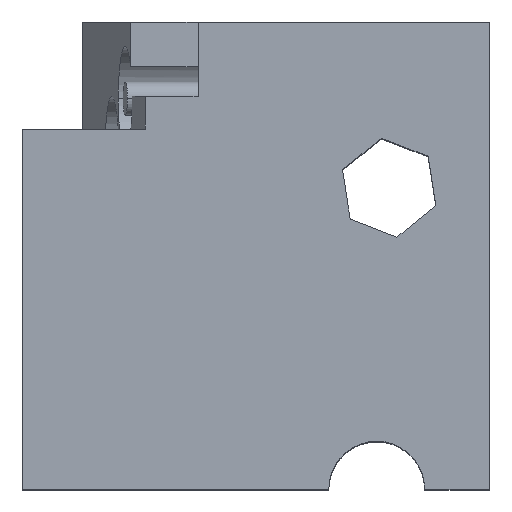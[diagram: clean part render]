
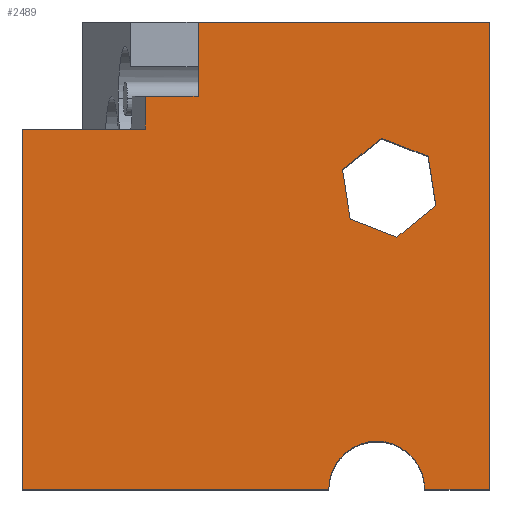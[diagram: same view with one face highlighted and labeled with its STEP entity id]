
A CAD part, top view. The second image highlights one B-rep face of the part: STEP entity #2489.
In plain terms, the highlighted planar face has unit normal (0, 0, 1).
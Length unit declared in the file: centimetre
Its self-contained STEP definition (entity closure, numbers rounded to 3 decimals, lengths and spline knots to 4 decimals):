
#1 = CARTESIAN_POINT ( 'NONE',  ( 1000., 1000., 1000. ) ) ;
#34 = DIRECTION ( 'NONE',  ( 0., 1., 0. ) ) ;
#35 = FACE_BOUND ( 'NONE', #2170, .T. ) ;
#63 = VERTEX_POINT ( 'NONE', #991 ) ;
#85 = EDGE_CURVE ( 'NONE', #896, #1041, #2085, .T. ) ;
#97 = VECTOR ( 'NONE', #1310, 100. ) ;
#101 = EDGE_CURVE ( 'NONE', #1649, #447, #193, .T. ) ;
#102 = LINE ( 'NONE', #1852, #1238 ) ;
#107 = VERTEX_POINT ( 'NONE', #1 ) ;
#124 = CARTESIAN_POINT ( 'NONE',  ( 0., 0., 1000. ) ) ;
#126 = ORIENTED_EDGE ( 'NONE', *, *, #444, .T. ) ;
#128 = VECTOR ( 'NONE', #2075, 100. ) ;
#193 = LINE ( 'NONE', #1333, #2061 ) ;
#195 = EDGE_CURVE ( 'NONE', #107, #1425, #1441, .T. ) ;
#250 = ORIENTED_EDGE ( 'NONE', *, *, #1035, .T. ) ;
#256 = ORIENTED_EDGE ( 'NONE', *, *, #734, .F. ) ;
#305 = DIRECTION ( 'NONE',  ( 0., 0., -1. ) ) ;
#309 = EDGE_CURVE ( 'NONE', #1043, #107, #1638, .T. ) ;
#317 = ORIENTED_EDGE ( 'NONE', *, *, #2340, .T. ) ;
#318 = CARTESIAN_POINT ( 'NONE',  ( 758.36, 0., 1000. ) ) ;
#331 = ORIENTED_EDGE ( 'NONE', *, *, #2059, .T. ) ;
#356 = DIRECTION ( 'NONE',  ( -0.933, 0.361, 0. ) ) ;
#390 = LINE ( 'NONE', #1568, #965 ) ;
#402 = CARTESIAN_POINT ( 'NONE',  ( 187.3275, 841.0035, 1000. ) ) ;
#444 = EDGE_CURVE ( 'NONE', #1103, #1983, #525, .T. ) ;
#447 = VERTEX_POINT ( 'NONE', #1106 ) ;
#460 = CARTESIAN_POINT ( 'NONE',  ( 375.9681, 1000., 1000. ) ) ;
#477 = DIRECTION ( 'NONE',  ( 0., 1., 0. ) ) ;
#506 = LINE ( 'NONE', #1858, #631 ) ;
#512 = EDGE_CURVE ( 'NONE', #626, #63, #2009, .T. ) ;
#513 = CARTESIAN_POINT ( 'NONE',  ( 685.1452, 684.0141, 1000. ) ) ;
#517 = CARTESIAN_POINT ( 'NONE',  ( 263.4276, 841.0035, 1000. ) ) ;
#525 = CIRCLE ( 'NONE', #1616, 102.5906 ) ;
#574 = CARTESIAN_POINT ( 'NONE',  ( 375.9681, 841.0035, 1000. ) ) ;
#616 = CARTESIAN_POINT ( 'NONE',  ( 0., 0., 1000. ) ) ;
#626 = VERTEX_POINT ( 'NONE', #1184 ) ;
#631 = VECTOR ( 'NONE', #2188, 100. ) ;
#649 = ORIENTED_EDGE ( 'NONE', *, *, #512, .F. ) ;
#670 = CARTESIAN_POINT ( 'NONE',  ( 0., 1000., 1000. ) ) ;
#683 = DIRECTION ( 'NONE',  ( -1., 0., 0. ) ) ;
#734 = EDGE_CURVE ( 'NONE', #1041, #1425, #1980, .T. ) ;
#784 = EDGE_LOOP ( 'NONE', ( #256, #1914, #1320, #649, #869, #862, #126, #827, #1786, #1674 ) ) ;
#819 = DIRECTION ( 'NONE',  ( 1., 0., 0. ) ) ;
#827 = ORIENTED_EDGE ( 'NONE', *, *, #1165, .T. ) ;
#856 = LINE ( 'NONE', #670, #2168 ) ;
#862 = ORIENTED_EDGE ( 'NONE', *, *, #1341, .T. ) ;
#869 = ORIENTED_EDGE ( 'NONE', *, *, #1470, .T. ) ;
#891 = CARTESIAN_POINT ( 'NONE',  ( 885.0367, 606.6607, 1000. ) ) ;
#896 = VERTEX_POINT ( 'NONE', #517 ) ;
#912 = DIRECTION ( 'NONE',  ( 1., 0., 0. ) ) ;
#939 = LINE ( 'NONE', #2484, #97 ) ;
#947 = EDGE_CURVE ( 'NONE', #63, #896, #102, .T. ) ;
#958 = VECTOR ( 'NONE', #1209, 100. ) ;
#965 = VECTOR ( 'NONE', #819, 100. ) ;
#977 = CARTESIAN_POINT ( 'NONE',  ( 0., 0., 1000. ) ) ;
#991 = CARTESIAN_POINT ( 'NONE',  ( 263.4276, 770.7569, 1000. ) ) ;
#1029 = CARTESIAN_POINT ( 'NONE',  ( 375.9681, 841.0035, 1000. ) ) ;
#1035 = EDGE_CURVE ( 'NONE', #2378, #2246, #2479, .T. ) ;
#1041 = VERTEX_POINT ( 'NONE', #574 ) ;
#1043 = VERTEX_POINT ( 'NONE', #1324 ) ;
#1057 = VERTEX_POINT ( 'NONE', #2500 ) ;
#1060 = CARTESIAN_POINT ( 'NONE',  ( 0., 1000., 1000. ) ) ;
#1069 = EDGE_CURVE ( 'NONE', #2246, #1057, #1347, .T. ) ;
#1103 = VERTEX_POINT ( 'NONE', #1365 ) ;
#1106 = CARTESIAN_POINT ( 'NONE',  ( 701.6231, 578.1202, 1000. ) ) ;
#1165 = EDGE_CURVE ( 'NONE', #1983, #1043, #390, .T. ) ;
#1184 = CARTESIAN_POINT ( 'NONE',  ( 0., 770.7569, 1000. ) ) ;
#1191 = DIRECTION ( 'NONE',  ( 1., 0., 0. ) ) ;
#1206 = DIRECTION ( 'NONE',  ( -1., 0., 0. ) ) ;
#1209 = DIRECTION ( 'NONE',  ( -0.779, -0.627, 0. ) ) ;
#1238 = VECTOR ( 'NONE', #477, 100. ) ;
#1310 = DIRECTION ( 'NONE',  ( -0.154, 0.988, 0. ) ) ;
#1315 = VECTOR ( 'NONE', #2466, 100. ) ;
#1320 = ORIENTED_EDGE ( 'NONE', *, *, #947, .F. ) ;
#1324 = CARTESIAN_POINT ( 'NONE',  ( 1000., 0., 1000. ) ) ;
#1333 = CARTESIAN_POINT ( 'NONE',  ( 801.5689, 539.4435, 1000. ) ) ;
#1341 = EDGE_CURVE ( 'NONE', #2422, #1103, #2316, .T. ) ;
#1347 = LINE ( 'NONE', #1692, #1315 ) ;
#1360 = DIRECTION ( 'NONE',  ( 1., 0., 0. ) ) ;
#1365 = CARTESIAN_POINT ( 'NONE',  ( 655.7695, 0., 1000. ) ) ;
#1414 = CARTESIAN_POINT ( 'NONE',  ( 860.9506, 0., 1000. ) ) ;
#1425 = VERTEX_POINT ( 'NONE', #460 ) ;
#1432 = VECTOR ( 'NONE', #1206, 100. ) ;
#1441 = LINE ( 'NONE', #1060, #1432 ) ;
#1446 = DIRECTION ( 'NONE',  ( 0., -1., 0. ) ) ;
#1470 = EDGE_CURVE ( 'NONE', #626, #2422, #856, .T. ) ;
#1487 = ORIENTED_EDGE ( 'NONE', *, *, #1546, .T. ) ;
#1498 = VECTOR ( 'NONE', #1876, 100. ) ;
#1546 = EDGE_CURVE ( 'NONE', #2260, #1649, #1779, .T. ) ;
#1568 = CARTESIAN_POINT ( 'NONE',  ( 0., 0., 1000. ) ) ;
#1584 = ORIENTED_EDGE ( 'NONE', *, *, #1069, .T. ) ;
#1615 = CARTESIAN_POINT ( 'NONE',  ( 885.0367, 606.6607, 1000. ) ) ;
#1616 = AXIS2_PLACEMENT_3D ( 'NONE', #318, #305, #683 ) ;
#1638 = LINE ( 'NONE', #1826, #1498 ) ;
#1649 = VERTEX_POINT ( 'NONE', #2311 ) ;
#1674 = ORIENTED_EDGE ( 'NONE', *, *, #195, .T. ) ;
#1692 = CARTESIAN_POINT ( 'NONE',  ( 768.6131, 751.2313, 1000. ) ) ;
#1779 = LINE ( 'NONE', #1615, #958 ) ;
#1786 = ORIENTED_EDGE ( 'NONE', *, *, #309, .T. ) ;
#1817 = VECTOR ( 'NONE', #912, 100. ) ;
#1826 = CARTESIAN_POINT ( 'NONE',  ( 1000., 1000., 1000. ) ) ;
#1852 = CARTESIAN_POINT ( 'NONE',  ( 263.4276, 770.7569, 1000. ) ) ;
#1858 = CARTESIAN_POINT ( 'NONE',  ( 868.5589, 712.5546, 1000. ) ) ;
#1874 = CARTESIAN_POINT ( 'NONE',  ( 0., 770.7569, 1000. ) ) ;
#1876 = DIRECTION ( 'NONE',  ( 0., 1., 0. ) ) ;
#1883 = VECTOR ( 'NONE', #34, 100. ) ;
#1910 = PLANE ( 'NONE',  #2374 ) ;
#1913 = DIRECTION ( 'NONE',  ( 1., 0., 0. ) ) ;
#1914 = ORIENTED_EDGE ( 'NONE', *, *, #85, .F. ) ;
#1915 = CARTESIAN_POINT ( 'NONE',  ( 685.1452, 684.0141, 1000. ) ) ;
#1927 = DIRECTION ( 'NONE',  ( 0., 0., 1. ) ) ;
#1980 = LINE ( 'NONE', #1029, #1883 ) ;
#1983 = VERTEX_POINT ( 'NONE', #1414 ) ;
#2009 = LINE ( 'NONE', #1874, #1817 ) ;
#2019 = ORIENTED_EDGE ( 'NONE', *, *, #101, .T. ) ;
#2059 = EDGE_CURVE ( 'NONE', #1057, #2260, #506, .T. ) ;
#2061 = VECTOR ( 'NONE', #356, 100. ) ;
#2075 = DIRECTION ( 'NONE',  ( 0.779, 0.627, 0. ) ) ;
#2085 = LINE ( 'NONE', #402, #2278 ) ;
#2135 = FACE_OUTER_BOUND ( 'NONE', #784, .T. ) ;
#2168 = VECTOR ( 'NONE', #1446, 100. ) ;
#2170 = EDGE_LOOP ( 'NONE', ( #317, #250, #1584, #331, #1487, #2019 ) ) ;
#2184 = VECTOR ( 'NONE', #1191, 100. ) ;
#2188 = DIRECTION ( 'NONE',  ( 0.154, -0.988, 0. ) ) ;
#2226 = CARTESIAN_POINT ( 'NONE',  ( 768.6131, 751.2313, 1000. ) ) ;
#2246 = VERTEX_POINT ( 'NONE', #2226 ) ;
#2260 = VERTEX_POINT ( 'NONE', #891 ) ;
#2278 = VECTOR ( 'NONE', #1913, 100. ) ;
#2311 = CARTESIAN_POINT ( 'NONE',  ( 801.5689, 539.4435, 1000. ) ) ;
#2316 = LINE ( 'NONE', #616, #2184 ) ;
#2340 = EDGE_CURVE ( 'NONE', #447, #2378, #939, .T. ) ;
#2374 = AXIS2_PLACEMENT_3D ( 'NONE', #977, #1927, #1360 ) ;
#2378 = VERTEX_POINT ( 'NONE', #513 ) ;
#2422 = VERTEX_POINT ( 'NONE', #124 ) ;
#2466 = DIRECTION ( 'NONE',  ( 0.933, -0.361, 0. ) ) ;
#2479 = LINE ( 'NONE', #1915, #128 ) ;
#2484 = CARTESIAN_POINT ( 'NONE',  ( 701.6231, 578.1202, 1000. ) ) ;
#2489 = ADVANCED_FACE ( 'NONE', ( #2135, #35 ), #1910, .T. ) ;
#2500 = CARTESIAN_POINT ( 'NONE',  ( 868.5589, 712.5546, 1000. ) ) ;
